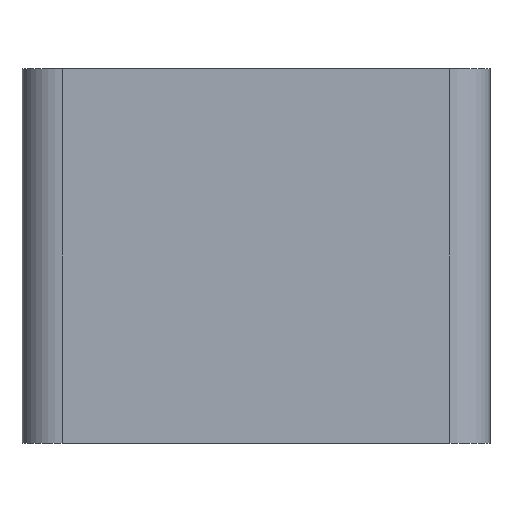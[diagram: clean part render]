
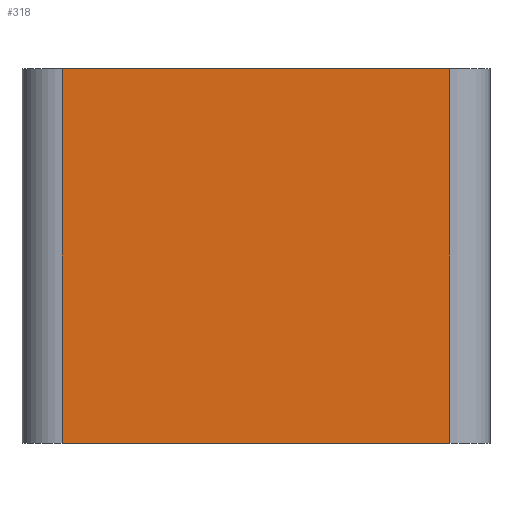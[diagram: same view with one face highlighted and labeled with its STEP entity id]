
A CAD part, front view. The second image highlights one B-rep face of the part: STEP entity #318.
In plain terms, the highlighted planar face has unit normal (0, -1, 0).
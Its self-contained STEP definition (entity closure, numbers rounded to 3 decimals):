
#182=FACE_OUTER_BOUND('',#1007,.T.);
#318=ADVANCED_FACE('',(#182),#488,.T.);
#488=PLANE('',#3042);
#594=LINE('',#4418,#736);
#595=LINE('',#4499,#737);
#596=LINE('',#4502,#738);
#597=LINE('',#4503,#739);
#736=VECTOR('',#3279,1.);
#737=VECTOR('',#3284,1.);
#738=VECTOR('',#3285,1.);
#739=VECTOR('',#3286,1.);
#1007=EDGE_LOOP('',(#1316,#1317,#1318,#1319));
#1316=ORIENTED_EDGE('',*,*,#2396,.T.);
#1317=ORIENTED_EDGE('',*,*,#2397,.T.);
#1318=ORIENTED_EDGE('',*,*,#2381,.T.);
#1319=ORIENTED_EDGE('',*,*,#2398,.T.);
#2103=VERTEX_POINT('',#4417);
#2104=VERTEX_POINT('',#4419);
#2118=VERTEX_POINT('',#4500);
#2119=VERTEX_POINT('',#4501);
#2381=EDGE_CURVE('',#2104,#2103,#594,.T.);
#2396=EDGE_CURVE('',#2118,#2119,#595,.T.);
#2397=EDGE_CURVE('',#2119,#2104,#596,.T.);
#2398=EDGE_CURVE('',#2103,#2118,#597,.T.);
#3042=AXIS2_PLACEMENT_3D('',#4504,#3287,#3288);
#3279=DIRECTION('',(-1.,0.,0.));
#3284=DIRECTION('',(1.,0.,0.));
#3285=DIRECTION('',(0.,0.,1.));
#3286=DIRECTION('',(0.,0.,-1.));
#3287=DIRECTION('',(0.,-1.,0.));
#3288=DIRECTION('',(0.,0.,-1.));
#4417=CARTESIAN_POINT('',(3.,0.,28.));
#4418=CARTESIAN_POINT('',(17.5,0.,28.));
#4419=CARTESIAN_POINT('',(32.,0.,28.));
#4499=CARTESIAN_POINT('',(17.5,0.,0.));
#4500=CARTESIAN_POINT('',(3.,0.,0.));
#4501=CARTESIAN_POINT('',(32.,0.,0.));
#4502=CARTESIAN_POINT('',(32.,0.,0.));
#4503=CARTESIAN_POINT('',(3.,0.,0.));
#4504=CARTESIAN_POINT('',(17.5,0.,0.));
